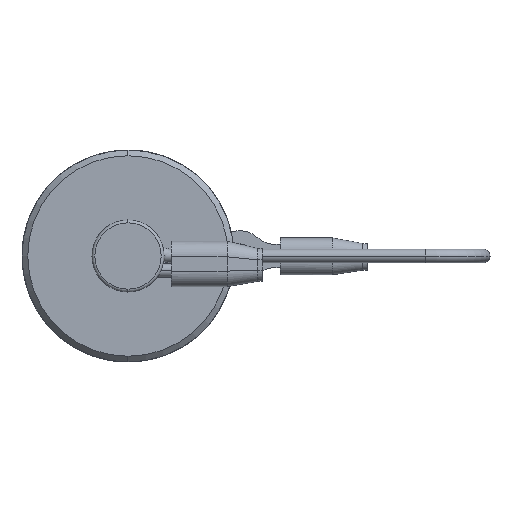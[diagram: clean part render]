
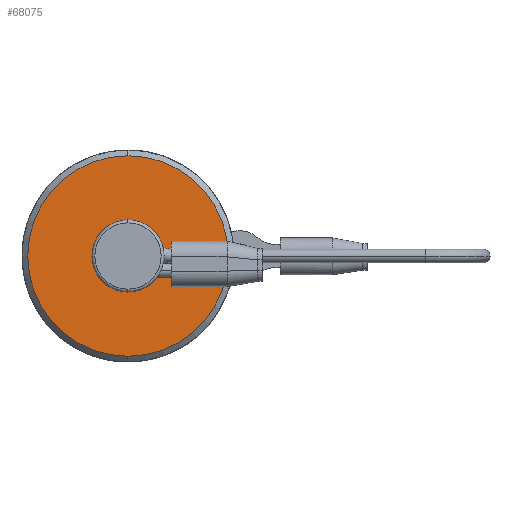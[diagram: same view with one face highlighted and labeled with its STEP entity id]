
A CAD part, left-side view. The second image highlights one B-rep face of the part: STEP entity #68075.
In plain terms, the highlighted planar face has unit normal (-1, 0, 0).
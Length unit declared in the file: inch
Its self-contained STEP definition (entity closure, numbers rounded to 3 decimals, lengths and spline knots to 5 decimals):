
#2307 = CIRCLE ( 'NONE', #26590, 0.25 ) ;
#6201 = AXIS2_PLACEMENT_3D ( 'NONE', #62896, #7169, #35724 ) ;
#7169 = DIRECTION ( 'NONE',  ( 1., 0., 0. ) ) ;
#9257 = DIRECTION ( 'NONE',  ( 0., 0., -1. ) ) ;
#9810 = PLANE ( 'NONE',  #25062 ) ;
#12360 = EDGE_CURVE ( 'NONE', #31902, #21235, #36160, .T. ) ;
#20593 = CARTESIAN_POINT ( 'NONE',  ( 0.25, 0., -0.25 ) ) ;
#21235 = VERTEX_POINT ( 'NONE', #56447 ) ;
#21767 = VERTEX_POINT ( 'NONE', #20593 ) ;
#24031 = ORIENTED_EDGE ( 'NONE', *, *, #87580, .T. ) ;
#25062 = AXIS2_PLACEMENT_3D ( 'NONE', #44534, #86477, #71808 ) ;
#26590 = AXIS2_PLACEMENT_3D ( 'NONE', #55653, #83300, #9257 ) ;
#31902 = VERTEX_POINT ( 'NONE', #38275 ) ;
#35724 = DIRECTION ( 'NONE',  ( 0., 0., -1. ) ) ;
#36160 = CIRCLE ( 'NONE', #6201, 0.6955 ) ;
#37074 = DIRECTION ( 'NONE',  ( 1., 0., 0. ) ) ;
#37260 = CIRCLE ( 'NONE', #82915, 0.25 ) ;
#38275 = CARTESIAN_POINT ( 'NONE',  ( 0.25, 0., 0.6955 ) ) ;
#42529 = EDGE_CURVE ( 'NONE', #50782, #21767, #2307, .T. ) ;
#42606 = DIRECTION ( 'NONE',  ( 1., 0., 0. ) ) ;
#44534 = CARTESIAN_POINT ( 'NONE',  ( 0.25, 0.6955, 0. ) ) ;
#48866 = DIRECTION ( 'NONE',  ( 0., 0., -1. ) ) ;
#50001 = CARTESIAN_POINT ( 'NONE',  ( 0.25, 0., 0. ) ) ;
#50226 = ORIENTED_EDGE ( 'NONE', *, *, #42529, .T. ) ;
#50782 = VERTEX_POINT ( 'NONE', #79344 ) ;
#51439 = CIRCLE ( 'NONE', #87099, 0.6955 ) ;
#55148 = CARTESIAN_POINT ( 'NONE',  ( 0.25, 0., 0. ) ) ;
#55228 = EDGE_CURVE ( 'NONE', #21235, #31902, #51439, .T. ) ;
#55653 = CARTESIAN_POINT ( 'NONE',  ( 0.25, 0., 0. ) ) ;
#56447 = CARTESIAN_POINT ( 'NONE',  ( 0.25, 0., -0.6955 ) ) ;
#62896 = CARTESIAN_POINT ( 'NONE',  ( 0.25, 0., 0. ) ) ;
#65096 = FACE_OUTER_BOUND ( 'NONE', #76071, .T. ) ;
#67226 = EDGE_LOOP ( 'NONE', ( #24031, #50226 ) ) ;
#68075 = ADVANCED_FACE ( 'NONE', ( #79782, #65096 ), #9810, .T. ) ;
#71808 = DIRECTION ( 'NONE',  ( 0., 0., 1. ) ) ;
#74926 = ORIENTED_EDGE ( 'NONE', *, *, #55228, .F. ) ;
#76071 = EDGE_LOOP ( 'NONE', ( #74926, #79645 ) ) ;
#77240 = DIRECTION ( 'NONE',  ( 0., 0., -1. ) ) ;
#79344 = CARTESIAN_POINT ( 'NONE',  ( 0.25, 0., 0.25 ) ) ;
#79645 = ORIENTED_EDGE ( 'NONE', *, *, #12360, .F. ) ;
#79782 = FACE_BOUND ( 'NONE', #67226, .T. ) ;
#82915 = AXIS2_PLACEMENT_3D ( 'NONE', #50001, #37074, #77240 ) ;
#83300 = DIRECTION ( 'NONE',  ( 1., 0., 0. ) ) ;
#86477 = DIRECTION ( 'NONE',  ( -1., 0., 0. ) ) ;
#87099 = AXIS2_PLACEMENT_3D ( 'NONE', #55148, #42606, #48866 ) ;
#87580 = EDGE_CURVE ( 'NONE', #21767, #50782, #37260, .T. ) ;
